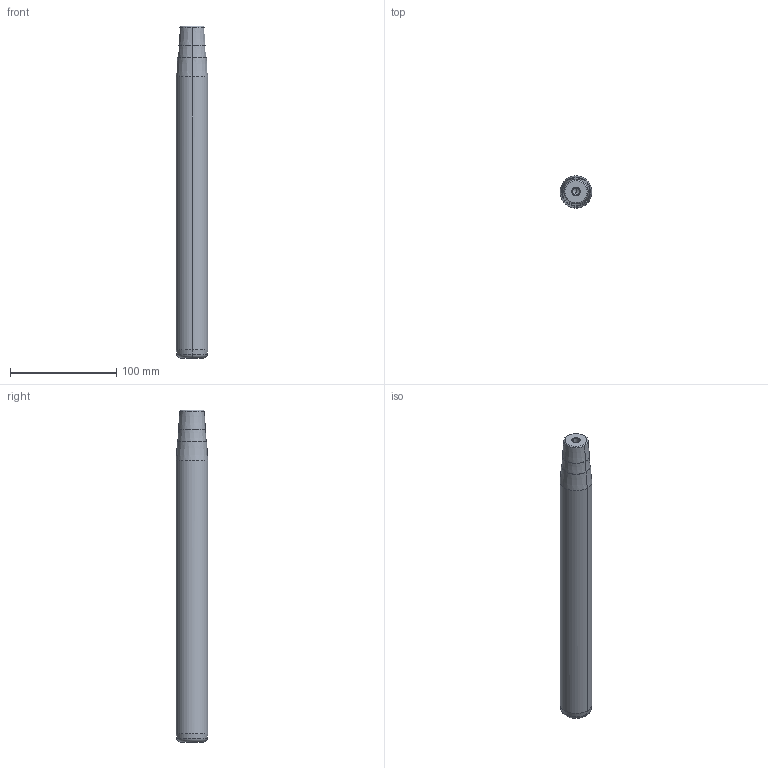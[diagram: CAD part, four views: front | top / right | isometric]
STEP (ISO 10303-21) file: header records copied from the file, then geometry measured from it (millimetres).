
FILE_DESCRIPTION(('CATIA V5 STEP Exchange'),'2;1');
FILE_NAME('C:\Users\Utente\Desktop\IO LAVORO\3D X SITO CF\X SITO\722\722-30x280x313.stp','2021-01-08T16:15:26+00:00',('none'),('none'),'CATIA Version 5 Release 20 GA (IN-10)','CATIA V5 STEP AP203','none');
FILE_SCHEMA(('CONFIG_CONTROL_DESIGN'));
Length unit declared in the file: millimetre
Products named in the file (1): 722-30x280x313
Bounding box: 30 x 30 x 313 mm (x, y, z)
Volume: 210948 mm3; surface area: 30915.1 mm2
Topology: 1 solids, 1 shells, 32 faces, 98 edges, 66 vertices
Faces by surface type: cone 22, cylinder 6, plane 2, torus 2
Entity records: 1166 total; most frequent: CARTESIAN_POINT 279, ORIENTED_EDGE 188, DIRECTION 148, EDGE_CURVE 94, AXIS2_PLACEMENT_3D 89, VERTEX_POINT 66, CIRCLE 56, EDGE_LOOP 34
